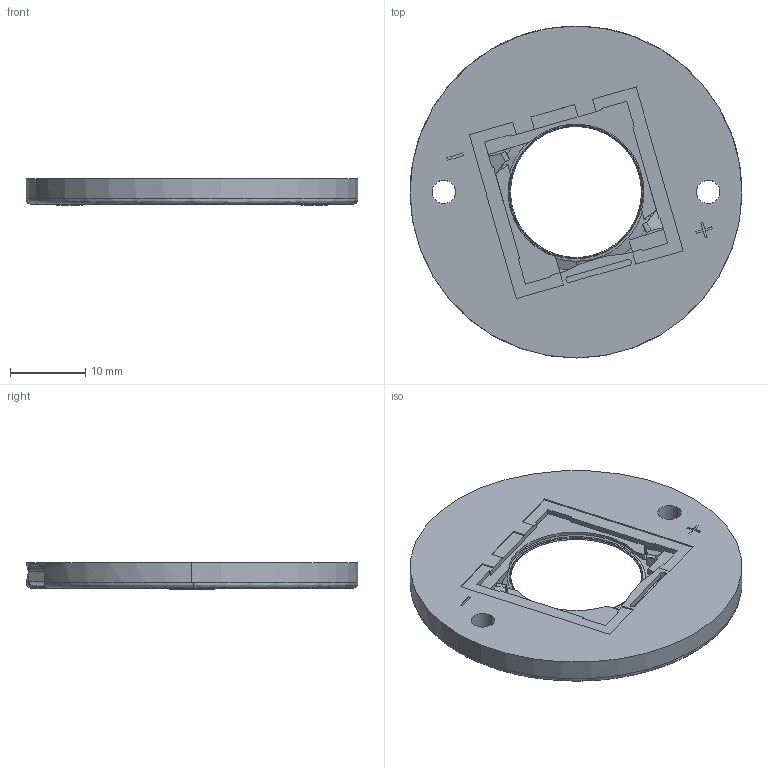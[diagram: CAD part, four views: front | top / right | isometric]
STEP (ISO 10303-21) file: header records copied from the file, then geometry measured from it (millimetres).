
FILE_DESCRIPTION (( 'STEP AP203' ), '1' );
FILE_NAME ('3576319swm000.step', '2017-09-15T08:38:15', ( 'OSRAM' ), ( 'OSRAM' ), 'SwSTEP 2.0', 'SolidWorks 2015', '' );
FILE_SCHEMA (( 'CONFIG_CONTROL_DESIGN' ));
Length unit declared in the file: millimetre
Products named in the file (1): 3576319swm000
Bounding box: 44 x 44 x 3.55 mm (x, y, z)
Volume: 3860.1 mm3; surface area: 3575.5 mm2
Topology: 1 solids, 1 shells, 220 faces, 600 edges, 388 vertices
Faces by surface type: plane 139, cylinder 49, bspline 24, cone 8
Entity records: 8184 total; most frequent: CARTESIAN_POINT 2782, ORIENTED_EDGE 1194, DIRECTION 993, EDGE_CURVE 597, VECTOR 399, LINE 399, VERTEX_POINT 388, AXIS2_PLACEMENT_3D 297
